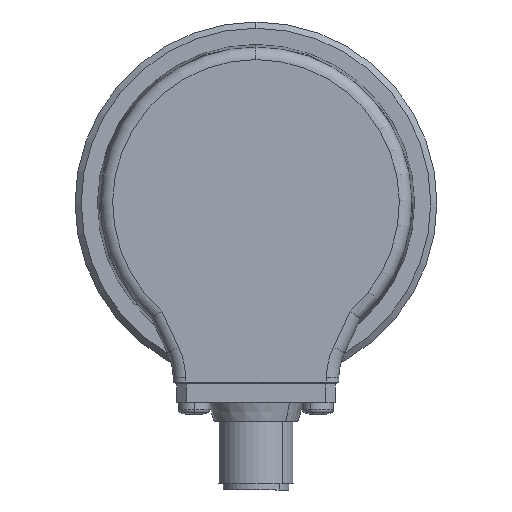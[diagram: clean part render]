
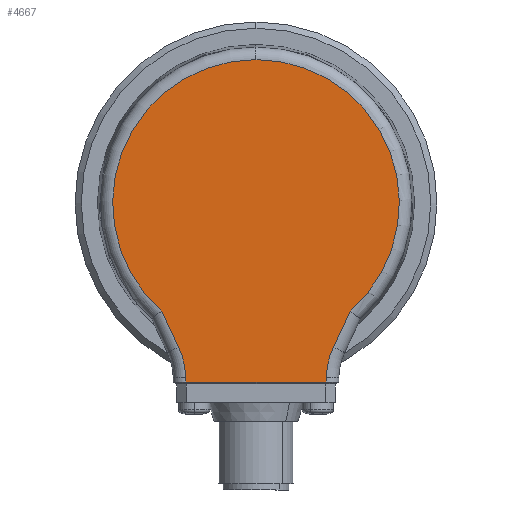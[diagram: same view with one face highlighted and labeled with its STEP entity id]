
A CAD part, left-side view. The second image highlights one B-rep face of the part: STEP entity #4667.
In plain terms, the highlighted planar face has unit normal (-1, 0, 0).
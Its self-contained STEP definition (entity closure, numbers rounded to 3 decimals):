
#4364 = EDGE_CURVE ( 'NONE', #4365, #4366, #6387, .T. ) ;
#4365 = VERTEX_POINT ( 'NONE', #6381 ) ;
#4366 = VERTEX_POINT ( 'NONE', #6380 ) ;
#4437 = EDGE_CURVE ( 'NONE', #4479, #4639, #6613, .T. ) ;
#4439 = ORIENTED_EDGE ( 'NONE', *, *, #4547, .T. ) ;
#4440 = ORIENTED_EDGE ( 'NONE', *, *, #4610, .T. ) ;
#4441 = ORIENTED_EDGE ( 'NONE', *, *, #4493, .T. ) ;
#4442 = ORIENTED_EDGE ( 'NONE', *, *, #4364, .T. ) ;
#4443 = ORIENTED_EDGE ( 'NONE', *, *, #4444, .T. ) ;
#4444 = EDGE_CURVE ( 'NONE', #4366, #4445, #6609, .T. ) ;
#4445 = VERTEX_POINT ( 'NONE', #6605 ) ;
#4446 = ORIENTED_EDGE ( 'NONE', *, *, #4447, .T. ) ;
#4447 = EDGE_CURVE ( 'NONE', #4445, #4654, #6603, .T. ) ;
#4479 = VERTEX_POINT ( 'NONE', #6765 ) ;
#4493 = EDGE_CURVE ( 'NONE', #4494, #4365, #6726, .T. ) ;
#4494 = VERTEX_POINT ( 'NONE', #6721 ) ;
#4529 = VERTEX_POINT ( 'NONE', #6953 ) ;
#4547 = EDGE_CURVE ( 'NONE', #4567, #4529, #6832, .T. ) ;
#4567 = VERTEX_POINT ( 'NONE', #7193 ) ;
#4610 = EDGE_CURVE ( 'NONE', #4529, #4494, #7107, .T. ) ;
#4639 = VERTEX_POINT ( 'NONE', #7338 ) ;
#4654 = VERTEX_POINT ( 'NONE', #7443 ) ;
#4655 = ORIENTED_EDGE ( 'NONE', *, *, #4437, .T. ) ;
#4656 = ORIENTED_EDGE ( 'NONE', *, *, #4657, .T. ) ;
#4657 = EDGE_CURVE ( 'NONE', #4639, #4567, #7432, .T. ) ;
#4667 = ADVANCED_FACE ( 'NONE', ( #7282 ), #7366, .F. ) ;
#4668 = EDGE_LOOP ( 'NONE', ( #4669, #4655, #4656, #4439, #4440, #4441, #4442, #4443, #4446 ) ) ;
#4669 = ORIENTED_EDGE ( 'NONE', *, *, #4670, .T. ) ;
#4670 = EDGE_CURVE ( 'NONE', #4654, #4479, #7361, .T. ) ;
#6380 = CARTESIAN_POINT ( 'NONE',  ( -21., 15.091, -17.32 ) ) ;
#6381 = CARTESIAN_POINT ( 'NONE',  ( -21., 0., 22.972 ) ) ;
#6382 = DIRECTION ( 'NONE',  ( 0., 0., 1. ) ) ;
#6383 = DIRECTION ( 'NONE',  ( -1., 0., 0. ) ) ;
#6384 = CARTESIAN_POINT ( 'NONE',  ( -21., 0., 0. ) ) ;
#6385 = AXIS2_PLACEMENT_3D ( 'NONE', #6384, #6383, #6382 ) ;
#6387 = CIRCLE ( 'NONE', #6385, 22.972 ) ;
#6599 = DIRECTION ( 'NONE',  ( 0., 0., 1. ) ) ;
#6600 = DIRECTION ( 'NONE',  ( 1., 0., 0. ) ) ;
#6601 = CARTESIAN_POINT ( 'NONE',  ( -21., 23.266, -28.183 ) ) ;
#6602 = AXIS2_PLACEMENT_3D ( 'NONE', #6601, #6600, #6599 ) ;
#6603 = CIRCLE ( 'NONE', #6602, 12. ) ;
#6605 = CARTESIAN_POINT ( 'NONE',  ( -21., 12.39, -23.112 ) ) ;
#6606 = DIRECTION ( 'NONE',  ( 0., -0.423, -0.906 ) ) ;
#6607 = VECTOR ( 'NONE', #6606, 1000. ) ;
#6608 = CARTESIAN_POINT ( 'NONE',  ( -21., 12.39, -23.112 ) ) ;
#6609 = LINE ( 'NONE', #6608, #6607 ) ;
#6610 = DIRECTION ( 'NONE',  ( 0., -1., 0. ) ) ;
#6611 = VECTOR ( 'NONE', #6610, 1000. ) ;
#6612 = CARTESIAN_POINT ( 'NONE',  ( -21., -11.25, -28.695 ) ) ;
#6613 = LINE ( 'NONE', #6612, #6611 ) ;
#6721 = CARTESIAN_POINT ( 'NONE',  ( -21., -15.091, -17.32 ) ) ;
#6722 = DIRECTION ( 'NONE',  ( 0., 0., 1. ) ) ;
#6723 = DIRECTION ( 'NONE',  ( -1., 0., 0. ) ) ;
#6724 = CARTESIAN_POINT ( 'NONE',  ( -21., 0., 0. ) ) ;
#6725 = AXIS2_PLACEMENT_3D ( 'NONE', #6724, #6723, #6722 ) ;
#6726 = CIRCLE ( 'NONE', #6725, 22.972 ) ;
#6765 = CARTESIAN_POINT ( 'NONE',  ( -21., 11.255, -28.695 ) ) ;
#6828 = DIRECTION ( 'NONE',  ( 0., 0., 1. ) ) ;
#6829 = DIRECTION ( 'NONE',  ( 1., 0., 0. ) ) ;
#6830 = CARTESIAN_POINT ( 'NONE',  ( -21., -23.266, -28.183 ) ) ;
#6831 = AXIS2_PLACEMENT_3D ( 'NONE', #6830, #6829, #6828 ) ;
#6832 = CIRCLE ( 'NONE', #6831, 12. ) ;
#6953 = CARTESIAN_POINT ( 'NONE',  ( -21., -12.39, -23.112 ) ) ;
#7099 = DIRECTION ( 'NONE',  ( 0., -0.423, 0.906 ) ) ;
#7100 = VECTOR ( 'NONE', #7099, 1000. ) ;
#7101 = CARTESIAN_POINT ( 'NONE',  ( -21., -14.953, -17.615 ) ) ;
#7107 = LINE ( 'NONE', #7101, #7100 ) ;
#7193 = CARTESIAN_POINT ( 'NONE',  ( -21., -11.268, -27.974 ) ) ;
#7282 = FACE_OUTER_BOUND ( 'NONE', #4668, .T. ) ;
#7338 = CARTESIAN_POINT ( 'NONE',  ( -21., -11.255, -28.695 ) ) ;
#7358 = DIRECTION ( 'NONE',  ( 0., -0.017, -1. ) ) ;
#7359 = VECTOR ( 'NONE', #7358, 1000. ) ;
#7360 = CARTESIAN_POINT ( 'NONE',  ( -21., 11.752, -0.205 ) ) ;
#7361 = LINE ( 'NONE', #7360, #7359 ) ;
#7362 = DIRECTION ( 'NONE',  ( 0., 0., 1. ) ) ;
#7363 = DIRECTION ( 'NONE',  ( 1., 0., 0. ) ) ;
#7364 = CARTESIAN_POINT ( 'NONE',  ( -21., 0., 0. ) ) ;
#7365 = AXIS2_PLACEMENT_3D ( 'NONE', #7364, #7363, #7362 ) ;
#7366 = PLANE ( 'NONE',  #7365 ) ;
#7429 = DIRECTION ( 'NONE',  ( 0., -0.017, 1. ) ) ;
#7430 = VECTOR ( 'NONE', #7429, 1000. ) ;
#7431 = CARTESIAN_POINT ( 'NONE',  ( -21., -11.752, -0.205 ) ) ;
#7432 = LINE ( 'NONE', #7431, #7430 ) ;
#7443 = CARTESIAN_POINT ( 'NONE',  ( -21., 11.268, -27.974 ) ) ;
